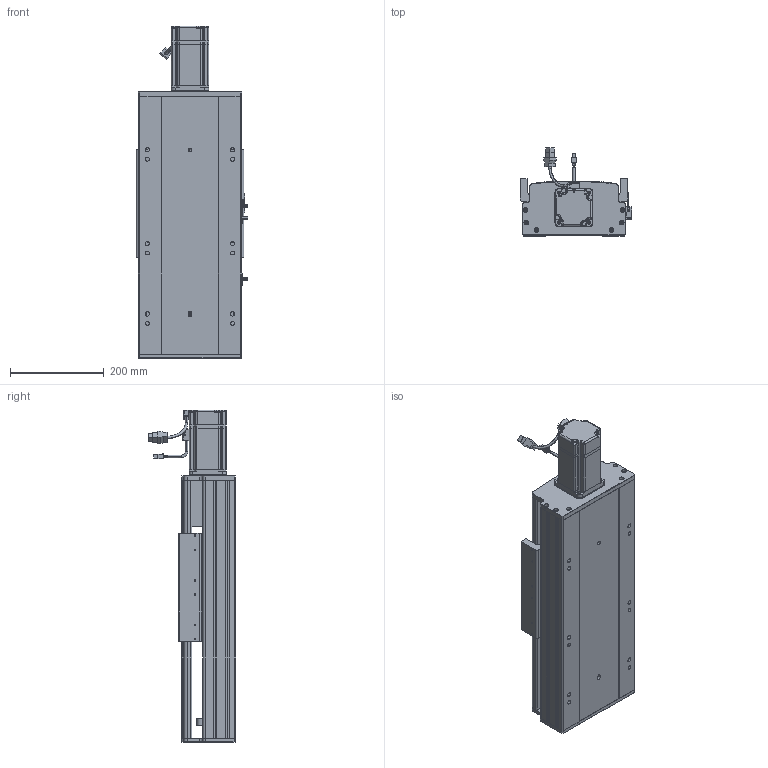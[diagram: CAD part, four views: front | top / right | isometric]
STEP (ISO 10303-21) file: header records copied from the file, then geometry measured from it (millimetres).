
FILE_DESCRIPTION (( 'STEP AP203' ), '1' );
FILE_NAME ('RY220-L2525-300-MK.SLDASM_150.step', '2022-07-04T02:57:09', ( '' ), ( '' ), 'SwSTEP 2.0', 'SolidWorks 2016', '' );
FILE_SCHEMA (( 'CONFIG_CONTROL_DESIGN' ));
Length unit declared in the file: millimetre
Products named in the file (12): RY220电机支撑座FK20（PCD90M6）; RY220菁釱MK-300_150; 怢湛750W_ECMA-CX0807ES; 滅袉蝶18-15; RY220綴裔啣; 覜茼ん672; RY220-L2525-300-MK.SLDASM_150; RY220-300-奻裔啣-MK_150; RY220半封闭25-32螺母铝滑块; RY220-俋离672覜茼んえ; RY220ヶ裔啣; 滅袉蝶18-12
Assembly tree (15 placements, depth 2):
  RY220-L2525-300-MK.SLDASM_150
    RY220菁釱MK-300_150
    RY220电机支撑座FK20（PCD90M6）
    怢湛750W_ECMA-CX0807ES
    滅袉蝶18-12  x2
    RY220ヶ裔啣
    RY220綴裔啣
    覜茼ん672  x3
    RY220半封闭25-32螺母铝滑块
    RY220-300-奻裔啣-MK_150
    RY220-俋离672覜茼んえ
    滅袉蝶18-15  x2
Bounding box: 238.7 x 187.27 x 708.3 mm (x, y, z)
Volume: 6871464 mm3; surface area: 1639284.1 mm2
Topology: 16 solids, 16 shells, 2046 faces, 5662 edges, 3604 vertices
Faces by surface type: plane 907, cylinder 884, cone 193, bspline 36, sphere 16, torus 10
Entity records: 67074 total; most frequent: CARTESIAN_POINT 19221, ORIENTED_EDGE 9976, DIRECTION 9291, EDGE_CURVE 4988, VERTEX_POINT 3260, AXIS2_PLACEMENT_3D 3219, VECTOR 2853, LINE 2853
